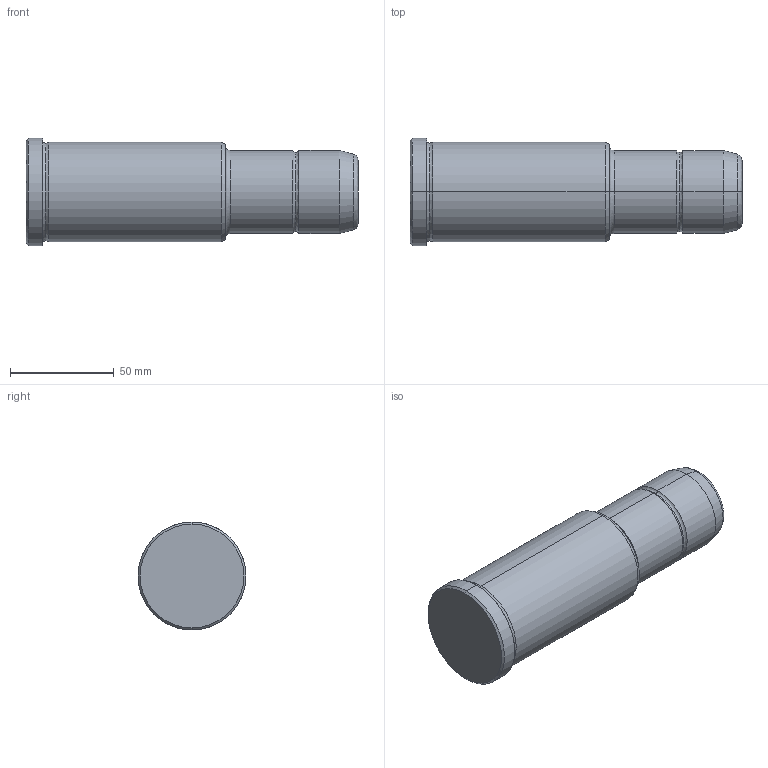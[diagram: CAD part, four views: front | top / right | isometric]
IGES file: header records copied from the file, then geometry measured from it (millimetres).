
Start section: START RECORD GO HERE.
Global section: file name: 351-40X96X160.igs; native system: DASSAULT SYSTEMES CATIA V5 R20 - www.3ds.com; preprocessor: CATIA Version 5 Release 20 ; author: Utente; organization: NB04-ASUS; date: 20211007.161240; units: millimetre
Bounding box: 160 x 52 x 52 mm (x, y, z)
Surface area: 26227.1 mm2 (no closed solid volume)
Topology: 0 solids, 0 shells, 30 faces, 172 edges, 172 vertices
Faces by surface type: revolution 26, plane 4
